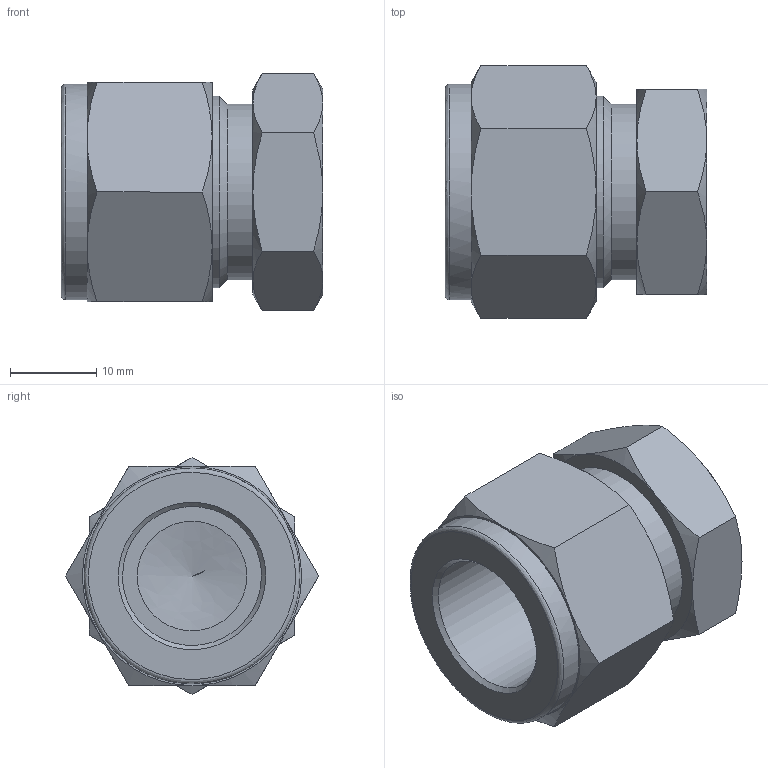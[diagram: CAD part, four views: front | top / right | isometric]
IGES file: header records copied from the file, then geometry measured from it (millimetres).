
Global section: file name: SC-10; native system: Autodesk Inventor 2016; preprocessor: unknown; author: DESIGNPC2; date: 20160312.132636; units: millimetre
Bounding box: 30.33 x 29.33 x 27.48 mm (x, y, z)
Volume: 9864.2 mm3; surface area: 5067.1 mm2
Topology: 1 solids, 1 shells, 51 faces, 119 edges, 74 vertices
Faces by surface type: bspline 51
